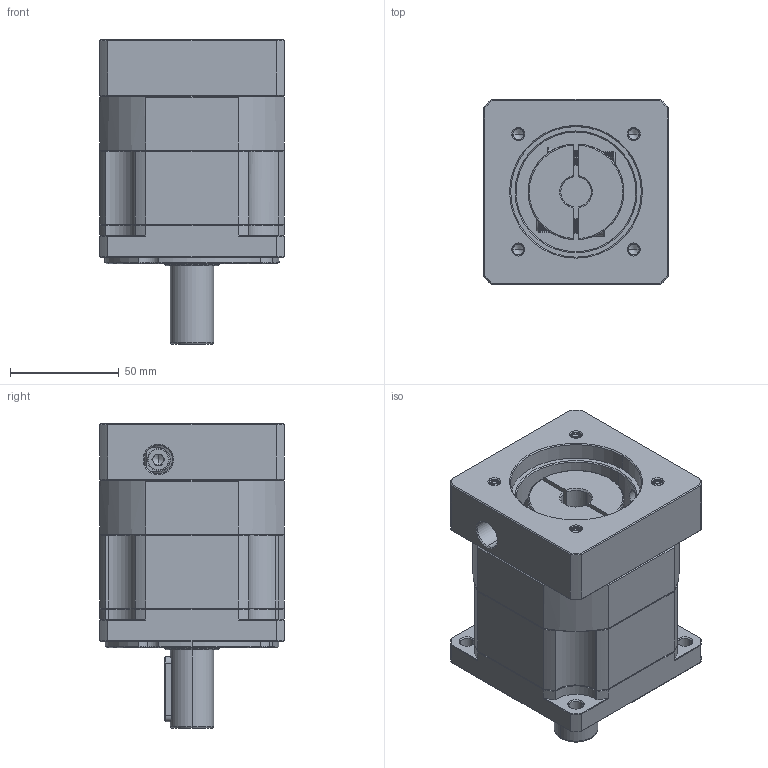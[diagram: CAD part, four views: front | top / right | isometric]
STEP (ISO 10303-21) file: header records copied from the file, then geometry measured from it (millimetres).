
FILE_DESCRIPTION (( 'STEP AP214' ), '1' );
FILE_NAME ('ZB90-D20-L1-14-60-75-M6.STEP', '2022-05-02T15:53:47', ( '' ), ( 'Microsoft' ), 'SwSTEP 2.0', 'SolidWorks 2016', '' );
FILE_SCHEMA (( 'AUTOMOTIVE_DESIGN' ));
Length unit declared in the file: millimetre
Products named in the file (1): ZB90-D20-L1-14-60-75-M6
Bounding box: 85 x 85 x 140 mm (x, y, z)
Volume: 618320.6 mm3; surface area: 85954.6 mm2
Topology: 4 solids, 5 shells, 1950 faces, 5081 edges, 3211 vertices
Faces by surface type: plane 882, cylinder 400, cone 342, bspline 299, torus 27
Entity records: 104967 total; most frequent: CARTESIAN_POINT 38428, ORIENTED_EDGE 10118, DIRECTION 8225, EDGE_CURVE 5059, VERTEX_POINT 3211, VECTOR 3101, LINE 3101, AXIS2_PLACEMENT_3D 2562
